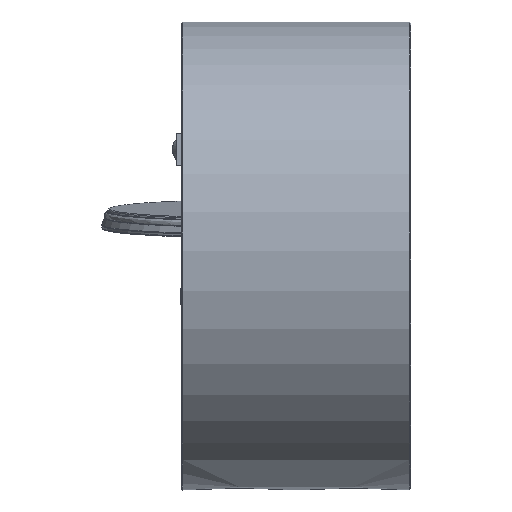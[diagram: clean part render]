
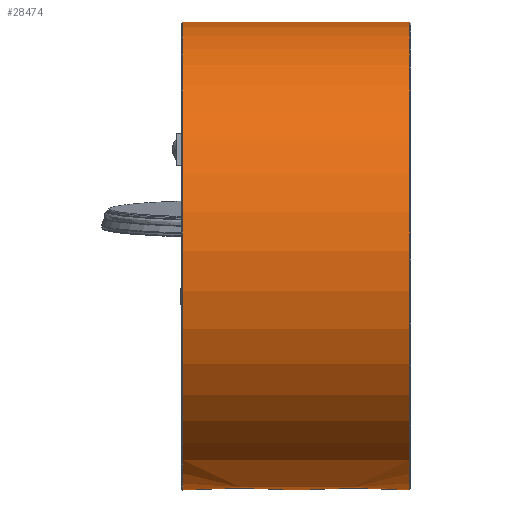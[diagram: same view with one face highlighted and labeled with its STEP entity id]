
A CAD part, left-side view. The second image highlights one B-rep face of the part: STEP entity #28474.
In plain terms, the highlighted free-form (B-spline) face has degree [2, 1] with [7, 2] control points.
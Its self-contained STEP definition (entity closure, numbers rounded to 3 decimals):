
#27709=CARTESIAN_POINT('V34',(0.5,112.5,
   0.0));
#27710=VERTEX_POINT('V34',#27709);
#27718=CARTESIAN_POINT('E41',(0.5,112.5,
   0.0));
#27719=CARTESIAN_POINT('E41',(0.5,112.5,
   -194.856));
#27720=CARTESIAN_POINT('E41',(0.5,-56.25,
   -97.428));
#27721=CARTESIAN_POINT('E41',(0.5,-225.,
   0.));
#27722=CARTESIAN_POINT('E41',(0.5,-56.25,
   97.428));
#27723=CARTESIAN_POINT('E41',(0.5,112.5,
   194.856));
#27724=CARTESIAN_POINT('E41',(0.5,112.5,
   0.0));
#27732=(BOUNDED_CURVE()B_SPLINE_CURVE(2,(#27718,#27719,#27720,
   #27721,#27722,#27723,#27724),.CIRCULAR_ARC.,.T.,.U.)
   B_SPLINE_CURVE_WITH_KNOTS((3,2,2,3),(0.0,549.91,
   1099.821,1649.731),.UNSPECIFIED.)CURVE()
   GEOMETRIC_REPRESENTATION_ITEM()RATIONAL_B_SPLINE_CURVE((1.0,
   0.5,1.0,0.5,1.0,0.5,1.0)
   )REPRESENTATION_ITEM('E41'));
#27733=EDGE_CURVE('E41',#27710,#27710,#27732,.T.);
#28303=CARTESIAN_POINT('V33',(109.5,
   112.5,0.0));
#28304=VERTEX_POINT('V33',#28303);
#28312=CARTESIAN_POINT('E38',(109.5,
   112.5,0.0));
#28313=CARTESIAN_POINT('E38',(109.5,
   112.5,-194.856));
#28314=CARTESIAN_POINT('E38',(109.5,
   -56.25,-97.428));
#28315=CARTESIAN_POINT('E38',(109.5,
   -225.,0.));
#28316=CARTESIAN_POINT('E38',(109.5,
   -56.25,97.428));
#28317=CARTESIAN_POINT('E38',(109.5,
   112.5,194.856));
#28318=CARTESIAN_POINT('E38',(109.5,
   112.5,0.0));
#28326=(BOUNDED_CURVE()B_SPLINE_CURVE(2,(#28312,#28313,#28314,
   #28315,#28316,#28317,#28318),.CIRCULAR_ARC.,.T.,.U.)
   B_SPLINE_CURVE_WITH_KNOTS((3,2,2,3),(0.0,3.575,
   7.151,10.726),.UNSPECIFIED.)CURVE()
   GEOMETRIC_REPRESENTATION_ITEM()RATIONAL_B_SPLINE_CURVE((1.0,
   0.5,1.0,0.5,1.0,0.5,1.0)
   )REPRESENTATION_ITEM('E38'));
#28327=EDGE_CURVE('E38',#28304,#28304,#28326,.T.);
#28337=CARTESIAN_POINT('V27',(99.037,112.5,
   0.0));
#28338=VERTEX_POINT('V27',#28337);
#28339=CARTESIAN_POINT('V28',(99.038,98.,
   55.247));
#28340=VERTEX_POINT('V28',#28339);
#28341=CARTESIAN_POINT('E30',(99.037,112.5,
   0.0));
#28342=CARTESIAN_POINT('E30',(99.038,112.5,
   29.526));
#28343=CARTESIAN_POINT('E30',(99.038,98.,
   55.247));
#28351=(BOUNDED_CURVE()B_SPLINE_CURVE(2,(#28341,#28342,#28343),
   .CIRCULAR_ARC.,.F.,.U.)CURVE()GEOMETRIC_REPRESENTATION_ITEM()
   QUASI_UNIFORM_CURVE()RATIONAL_B_SPLINE_CURVE((1.0,
   0.868,0.806))REPRESENTATION_ITEM('E30'));
#28352=EDGE_CURVE('E30',#28338,#28340,#28351,.T.);
#28354=CARTESIAN_POINT('V29',(99.038,98.,
   -55.247));
#28355=VERTEX_POINT('V29',#28354);
#28361=CARTESIAN_POINT('E32',(99.038,98.,
   -55.247));
#28362=CARTESIAN_POINT('E32',(99.038,112.5,
   -29.526));
#28363=CARTESIAN_POINT('E32',(99.037,112.5,
   0.0));
#28371=(BOUNDED_CURVE()B_SPLINE_CURVE(2,(#28361,#28362,#28363),
   .CIRCULAR_ARC.,.F.,.U.)CURVE()GEOMETRIC_REPRESENTATION_ITEM()
   QUASI_UNIFORM_CURVE()RATIONAL_B_SPLINE_CURVE((0.806,
   0.868,1.0))REPRESENTATION_ITEM('E32'));
#28372=EDGE_CURVE('E32',#28355,#28338,#28371,.T.);
#28382=CARTESIAN_POINT('V30',(50.962,112.5,
   0.0));
#28383=VERTEX_POINT('V30',#28382);
#28384=CARTESIAN_POINT('V31',(50.962,98.,
   -55.247));
#28385=VERTEX_POINT('V31',#28384);
#28386=CARTESIAN_POINT('E33',(50.962,112.5,
   0.0));
#28387=CARTESIAN_POINT('E33',(50.962,112.5,
   -29.526));
#28388=CARTESIAN_POINT('E33',(50.962,98.,
   -55.247));
#28396=(BOUNDED_CURVE()B_SPLINE_CURVE(2,(#28386,#28387,#28388),
   .CIRCULAR_ARC.,.F.,.U.)CURVE()GEOMETRIC_REPRESENTATION_ITEM()
   QUASI_UNIFORM_CURVE()RATIONAL_B_SPLINE_CURVE((1.0,
   0.868,0.806))REPRESENTATION_ITEM('E33'));
#28397=EDGE_CURVE('E33',#28383,#28385,#28396,.T.);
#28399=CARTESIAN_POINT('V32',(50.962,98.,
   55.247));
#28400=VERTEX_POINT('V32',#28399);
#28406=CARTESIAN_POINT('E35',(50.962,98.,
   55.247));
#28407=CARTESIAN_POINT('E35',(50.962,112.5,
   29.526));
#28408=CARTESIAN_POINT('E35',(50.962,112.5,
   0.0));
#28416=(BOUNDED_CURVE()B_SPLINE_CURVE(2,(#28406,#28407,#28408),
   .CIRCULAR_ARC.,.F.,.U.)CURVE()GEOMETRIC_REPRESENTATION_ITEM()
   QUASI_UNIFORM_CURVE()RATIONAL_B_SPLINE_CURVE((0.806,
   0.868,1.0))REPRESENTATION_ITEM('E35'));
#28417=EDGE_CURVE('E35',#28400,#28383,#28416,.T.);
#28422=CARTESIAN_POINT('F9',(0.5,112.5,
   0.0));
#28423=CARTESIAN_POINT('F9',(0.5,112.5,
   194.856));
#28424=CARTESIAN_POINT('F9',(0.5,-56.25,
   97.428));
#28425=CARTESIAN_POINT('F9',(0.5,-225.,
   0.));
#28426=CARTESIAN_POINT('F9',(0.5,-56.25,
   -97.428));
#28427=CARTESIAN_POINT('F9',(0.5,112.5,
   -194.856));
#28428=CARTESIAN_POINT('F9',(0.5,112.5,
   0.0));
#28429=CARTESIAN_POINT('F9',(109.5,112.5,
   0.0));
#28430=CARTESIAN_POINT('F9',(109.5,112.5,
   194.856));
#28431=CARTESIAN_POINT('F9',(109.5,-56.25,
   97.428));
#28432=CARTESIAN_POINT('F9',(109.5,
   -225.,0.));
#28433=CARTESIAN_POINT('F9',(109.5,-56.25,
   -97.428));
#28434=CARTESIAN_POINT('F9',(109.5,112.5,
   -194.856));
#28435=CARTESIAN_POINT('F9',(109.5,112.5,
   0.0));
#28443=(BOUNDED_SURFACE()B_SPLINE_SURFACE(2,1,((#28422,#28429),(
   #28423,#28430),(#28424,#28431),(#28425,#28432),(#28426,
   #28433),(#28427,#28434),(#28428,#28435)),.CYLINDRICAL_SURF.,
   .T.,.F.,.U.)B_SPLINE_SURFACE_WITH_KNOTS((3,2,2,3),(2,2),(0.0,
   3.575,7.151,10.726),(0.0,1.0),
   .UNSPECIFIED.)GEOMETRIC_REPRESENTATION_ITEM()
   RATIONAL_B_SPLINE_SURFACE(((1.0,1.0),(0.5,
   0.5),(1.0,1.0),(0.5,
   0.5),(1.0,1.0),(0.5,
   0.5),(1.0,1.0)))REPRESENTATION_ITEM('F9')SURFACE()
   );
#28444=ORIENTED_EDGE('E33',*,*,#28397,.F.);
#28445=CARTESIAN_POINT('E40',(50.962,112.5,
   0.0));
#28446=CARTESIAN_POINT('E40',(0.5,112.5,
   0.0));
#28447=B_SPLINE_CURVE_WITH_KNOTS('E40',1,(#28445,#28446),
   .POLYLINE_FORM.,.F.,.U.,(2,2),(0.537,1.0),
   .UNSPECIFIED.);
#28448=EDGE_CURVE('E40',#28383,#27710,#28447,.T.);
#28449=ORIENTED_EDGE('E40',*,*,#28448,.T.);
#28450=ORIENTED_EDGE('E41',*,*,#27733,.T.);
#28451=ORIENTED_EDGE('E40',*,*,#28448,.F.);
#28452=ORIENTED_EDGE('F8',*,*,#28417,.F.);
#28453=CARTESIAN_POINT('E39',(99.037,98.0,
   55.247));
#28454=CARTESIAN_POINT('E39',(50.963,98.0,
   55.247));
#28455=QUASI_UNIFORM_CURVE('E39',1,(#28453,#28454),.POLYLINE_FORM.,
   .F.,.U.);
#28456=EDGE_CURVE('E39',#28340,#28400,#28455,.T.);
#28457=ORIENTED_EDGE('E39',*,*,#28456,.F.);
#28458=ORIENTED_EDGE('E30',*,*,#28352,.F.);
#28459=CARTESIAN_POINT('E37',(109.5,
   112.5,0.0));
#28460=CARTESIAN_POINT('E37',(99.037,112.5,
   0.0));
#28461=B_SPLINE_CURVE_WITH_KNOTS('E37',1,(#28459,#28460),
   .POLYLINE_FORM.,.F.,.U.,(2,2),(0.0,0.096),
   .UNSPECIFIED.);
#28462=EDGE_CURVE('E37',#28304,#28338,#28461,.T.);
#28463=ORIENTED_EDGE('E37',*,*,#28462,.F.);
#28464=ORIENTED_EDGE('F11',*,*,#28327,.F.);
#28465=ORIENTED_EDGE('E37',*,*,#28462,.T.);
#28466=ORIENTED_EDGE('F7',*,*,#28372,.F.);
#28467=CARTESIAN_POINT('E36',(50.963,98.0,
   -55.247));
#28468=CARTESIAN_POINT('E36',(99.037,98.0,
   -55.247));
#28469=QUASI_UNIFORM_CURVE('E36',1,(#28467,#28468),.POLYLINE_FORM.,
   .F.,.U.);
#28470=EDGE_CURVE('E36',#28385,#28355,#28469,.T.);
#28471=ORIENTED_EDGE('E36',*,*,#28470,.F.);
#28472=EDGE_LOOP('F9',(#28444,#28449,#28450,#28451,#28452,#28457,
   #28458,#28463,#28464,#28465,#28466,#28471));
#28473=FACE_OUTER_BOUND('F9',#28472,.F.);
#28474=ADVANCED_FACE('F9',(#28473),#28443,.T.);
